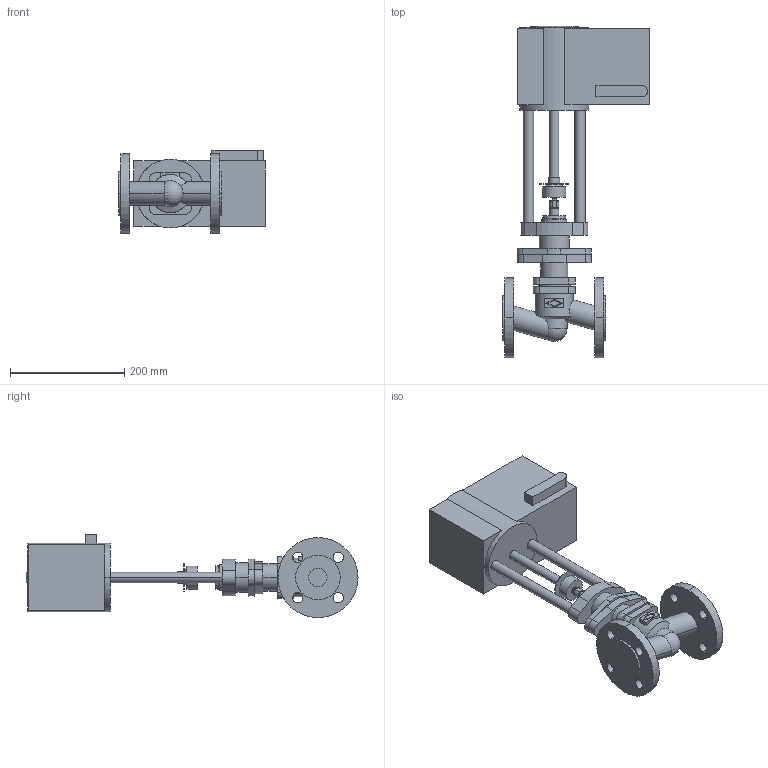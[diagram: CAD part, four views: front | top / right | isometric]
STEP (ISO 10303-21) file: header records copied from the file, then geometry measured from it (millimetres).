
FILE_DESCRIPTION(('Creo Elements/Direct Modeling STEP Export'),'2;1');
FILE_NAME('c000005071.stp','2013-06-04T 9:50:46',(''),(''),'Creo Elements/Direct Modeling STEP processor for AP203 (Solid Model)','Creo Elements/Direct Modeling 17.0D 15-Jul-2011 (C) Parametric Technology GmbH','');
FILE_SCHEMA(('CONFIG_CONTROL_DESIGN'));
Length unit declared in the file: millimetre
Products named in the file (5): 1; AnbauteileVentil; FR1.2
Assembly tree (2 placements, depth 2):
  1
  AnbauteileVentil
    AnbauteileVentil
  FR1.2
    FR1.2
Bounding box: 256 x 580.5 x 145.5 mm (x, y, z)
Volume: 5225580.1 mm3; surface area: 373733.8 mm2
Topology: 3 solids, 4 shells, 229 faces, 544 edges, 345 vertices
Faces by surface type: cylinder 100, plane 84, cone 26, torus 16, sphere 3
Entity records: 6939 total; most frequent: CARTESIAN_POINT 1402, ORIENTED_EDGE 1076, DIRECTION 1006, EDGE_CURVE 538, AXIS2_PLACEMENT_3D 380, VERTEX_POINT 345, EDGE_LOOP 275, VECTOR 246
